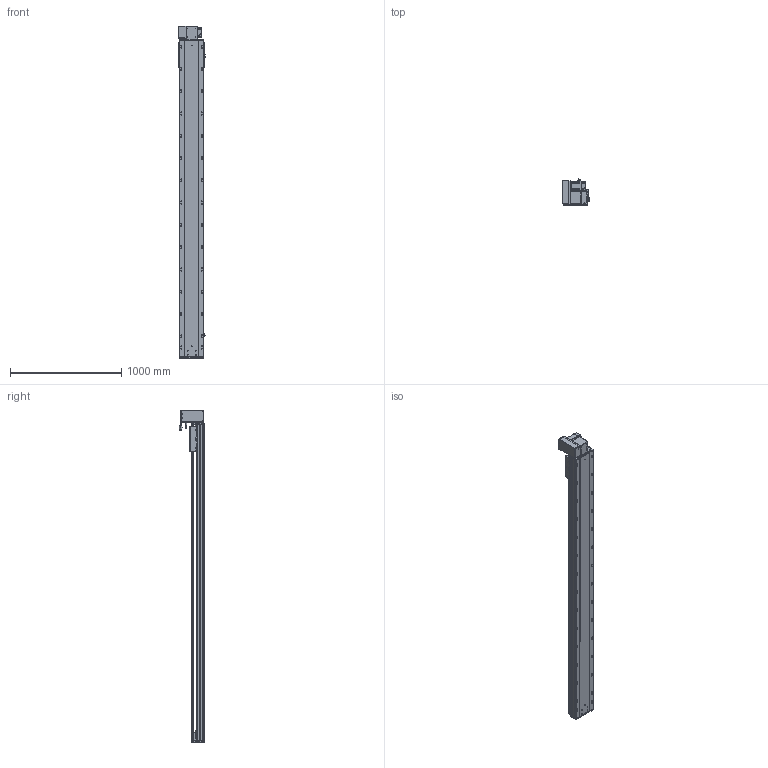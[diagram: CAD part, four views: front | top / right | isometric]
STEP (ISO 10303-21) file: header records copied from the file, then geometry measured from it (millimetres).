
FILE_DESCRIPTION (( 'STEP AP203' ), '1' );
FILE_NAME ('RY220-T-300-UL.SLDASM_2500.step', '2022-07-25T08:35:39', ( '' ), ( '' ), 'SwSTEP 2.0', 'SolidWorks 2016', '' );
FILE_SCHEMA (( 'CONFIG_CONTROL_DESIGN' ));
Length unit declared in the file: millimetre
Products named in the file (14): RY220-T-300-奻裔啣_2500; RY220-T-蛌殏萇儂假蚾啣(750W); RY220圉猾敕々湍臏賑輸; RY220翋肮祭謫裔啣; RY220-俋离672覜茼んえ; 滅袉蝶18-15; RY220-T-300-UL.SLDASM_2500; 怢湛750W_ECMA-CX0807ES; RY220翋肮祭謫釱; RY220-T-湍謫欶(鍼踢); 覜茼ん672; RY220-同步轮副支撑座6304×2; 110A-T-肮祭謫釱傷裔; RY220-T菁釱-300_2500
Assembly tree (18 placements, depth 2):
  RY220-T-300-UL.SLDASM_2500
    RY220-T菁釱-300_2500
    RY220翋肮祭謫釱
    覜茼ん672  x3
    RY220圉猾敕々湍臏賑輸
    RY220-T-300-奻裔啣_2500
    RY220-俋离672覜茼んえ
    滅袉蝶18-15  x3
    RY220翋肮祭謫裔啣  x2
    110A-T-肮祭謫釱傷裔
    怢湛750W_ECMA-CX0807ES
    RY220-T-湍謫欶(鍼踢)
    RY220-T-蛌殏萇儂假蚾啣(750W)
    RY220-同步轮副支撑座6304×2
Bounding box: 239.7 x 231.74 x 2980.5 mm (x, y, z)
Volume: 21965765.5 mm3; surface area: 6744922.3 mm2
Topology: 19 solids, 19 shells, 2936 faces, 8119 edges, 5096 vertices
Faces by surface type: cylinder 1436, plane 1069, cone 349, bspline 56, sphere 16, torus 10
Entity records: 97891 total; most frequent: CARTESIAN_POINT 27671, ORIENTED_EDGE 14522, DIRECTION 13972, EDGE_CURVE 7261, AXIS2_PLACEMENT_3D 5026, VERTEX_POINT 4720, VECTOR 3920, LINE 3920
